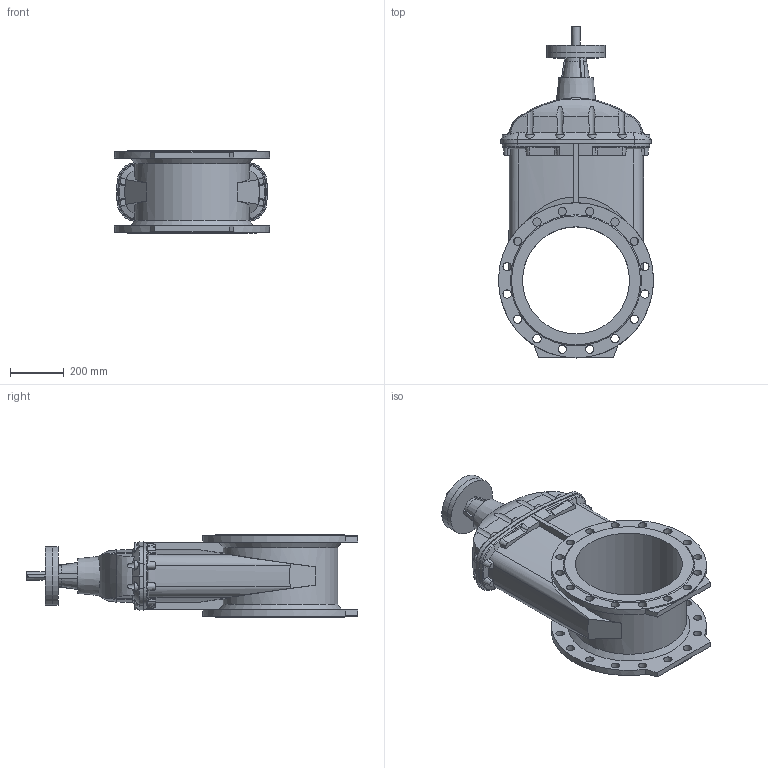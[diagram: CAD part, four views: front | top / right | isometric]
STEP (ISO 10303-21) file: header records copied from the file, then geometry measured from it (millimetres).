
FILE_DESCRIPTION (( 'STEP AP203' ), '1' );
FILE_NAME ('O_15_40_DN400_X1X_AA0.step', '2017-03-10T08:06:40', ( 'Windows User' ), ( 'AVK' ), 'SwSTEP 2.0', 'SolidWorks 2012', '' );
FILE_SCHEMA (( 'CONFIG_CONTROL_DESIGN' ));
Length unit declared in the file: millimetre
Products named in the file (1): O_15_40_DN400_X1X_AA0
Bounding box: 580 x 1241 x 310 mm (x, y, z)
Volume: 61378582 mm3; surface area: 2261702.6 mm2
Topology: 1 solids, 1 shells, 341 faces, 973 edges, 648 vertices
Faces by surface type: plane 117, cone 88, cylinder 74, bspline 33, torus 29
Full cylindrical faces by diameter (mm): 18 x4, 30 x1, 31 x32, 220 x2, 400 x1, 580 x2
Entity records: 16470 total; most frequent: CARTESIAN_POINT 8274, ORIENTED_EDGE 1774, DIRECTION 1495, EDGE_CURVE 887, AXIS2_PLACEMENT_3D 629, VERTEX_POINT 608, EDGE_LOOP 467, FACE_OUTER_BOUND 383
